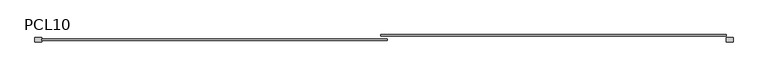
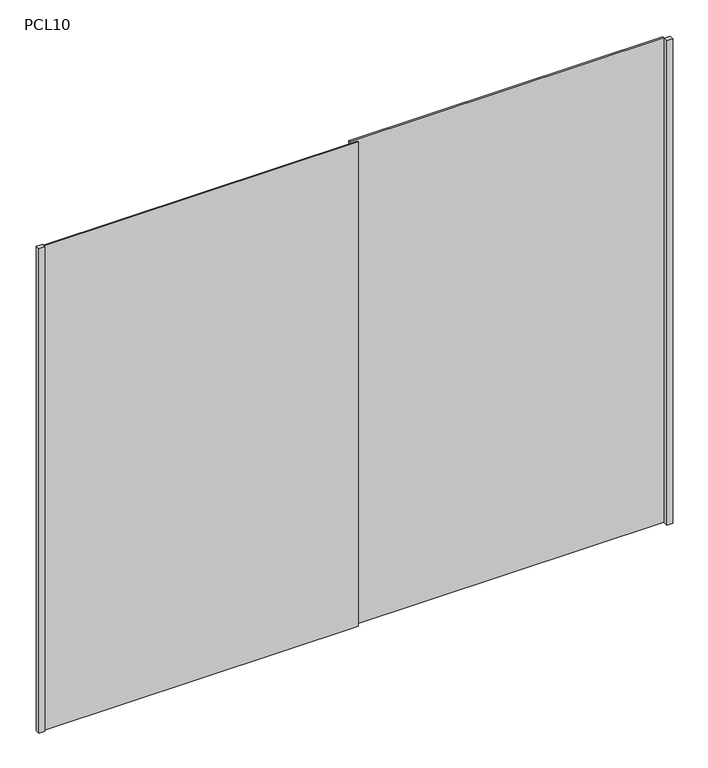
"""IFC4 building model written with IfcOpenShell, lengths in millimetres: furniture geometry, Puerta Closet corre 2 hojas : PCL10."""

from ifc_helpers import new_model, si_unit, origin, origin_with_axes, place, context, project, spatial, polyline, outline, extrude, source, transform, mapped, element, save


def pcl10_37f7375e(model_context):
    return source(origin(), model_context, "Body", "SweptSolid", [
        extrude(outline(polyline([(1020.0, 80.0), (990.0, 80.0), (990.0, 100.0), (1020.0, 100.0), (1020.0, 80.0)])), origin_with_axes(), (0.0, 0.0, 1.0), 2520.0),
        extrude(outline(polyline([(990.0, 106.6666667), (-555.0, 106.6666667), (-555.0, 113.3333333), (990.0, 113.3333333), (990.0, 106.6666667)])), origin_with_axes(), (0.0, 0.0, 1.0), 2520.0),
        extrude(outline(polyline([(-525.0, 86.6666667), (-2070.0, 86.6666667), (-2070.0, 93.3333333), (-525.0, 93.3333333), (-525.0, 86.6666667)])), origin_with_axes(), (0.0, 0.0, 1.0), 2520.0),
        extrude(outline(polyline([(-2100.0, 80.0), (-2100.0, 100.0), (-2070.0, 100.0), (-2070.0, 80.0), (-2100.0, 80.0)])), origin_with_axes(), (0.0, 0.0, 1.0), 2520.0),
    ])


if __name__ == "__main__":
    model = new_model("IFC4")
    model_context = context("Model", 3, world=origin())
    ifc_project = project(units=[si_unit("LENGTHUNIT", "METRE", prefix="MILLI")], contexts=[model_context])
    site = spatial("IfcSite", under=ifc_project)
    building = spatial("IfcBuilding", under=site)
    placement = place(None, origin())
    pcl10_shape = pcl10_37f7375e(model_context)
    element("IfcFurniture", 1, ObjectType="Puerta Closet corre 2 hojas : PCL10", at=placement, inside=building, context=model_context, shape_type="MappedRepresentation", body=[
        mapped(pcl10_shape, transform((0.0, 0.0, 0.0), x_axis=(1.0, 0.0, 0.0), y_axis=(0.0, 1.0, 0.0), z_axis=(0.0, 0.0, 1.0))),
    ])
    save(model, "model.ifc")
